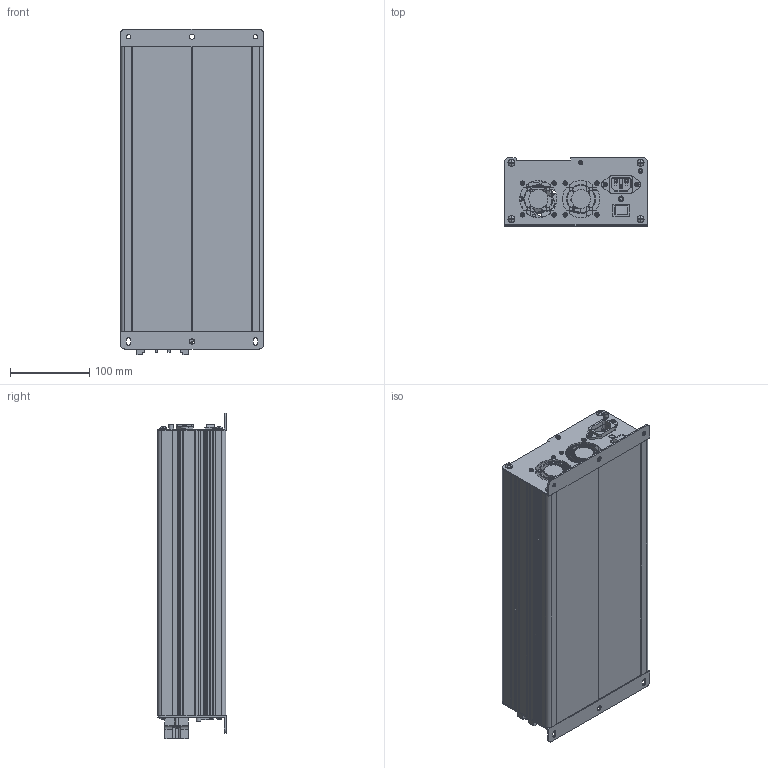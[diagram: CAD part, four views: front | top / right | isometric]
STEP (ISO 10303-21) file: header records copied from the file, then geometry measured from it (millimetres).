
FILE_DESCRIPTION(/* description */ (''),/* implementation_level */ '2;1');
FILE_NAME(/* name */ 'G:\05_충전기_1.5kW RENEWAL\[고객용 도면]\TC-1500W_2023.06.29.stp',/* time_stamp */ '2023-06-29T13:46:33+09:00',/* author */ ('jjang'),/* organization */ (''),/* preprocessor_version */ 'ST-DEVELOPER v18.1',/* originating_system */ 'Autodesk Inventor 2021',/* authorisation */ '');
FILE_SCHEMA (('AUTOMOTIVE_DESIGN { 1 0 10303 214 3 1 1 }'));
Products named in the file (1): 20221209_2kW 충전기 NEW_Shrinkwrap_2
Bounding box: 180 x 86 x 411.3 mm (x, y, z)
Volume: 1220854.1 mm3; surface area: 718289.4 mm2
Topology: 4 solids, 6 shells, 3234 faces, 9010 edges, 5960 vertices
Faces by surface type: plane 2005, cylinder 1067, torus 74, cone 58, bspline 22, sphere 8
Full cylindrical faces by diameter (mm): 0.457 x1, 0.8 x4, 1.6 x2, 2 x2, 2.3 x2, 2.5 x2, 2.8 x6, 3 x4, 3.2 x6, 3.4 x2, 3.5 x4, 3.6 x4, 3.8 x6, 3.9 x1, 4 x10, 4.2 x6, 4.5 x6, 4.6 x2, 4.9 x4, 5 x14, 5.4 x4, 5.5 x5, 5.636 x6, 5.7 x12, 6 x7, 6.5 x2, 6.6 x2, 8.8 x8, 9.8 x1, 10.286 x3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
Entity records: 108332 total; most frequent: CARTESIAN_POINT 20524, ORIENTED_EDGE 18004, DIRECTION 17962, EDGE_CURVE 9002, AXIS2_PLACEMENT_3D 6014, VERTEX_POINT 5960, LINE 5934, VECTOR 5934
